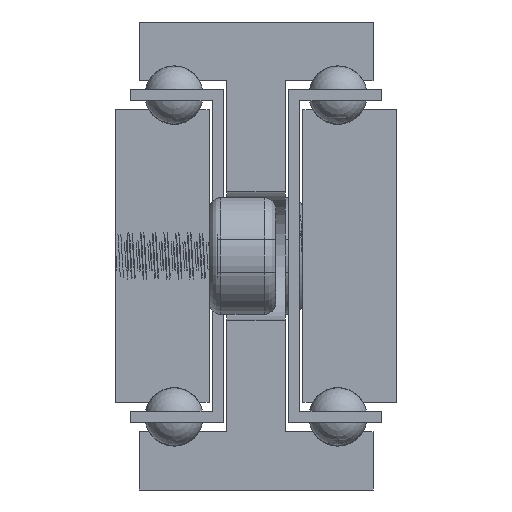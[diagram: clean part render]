
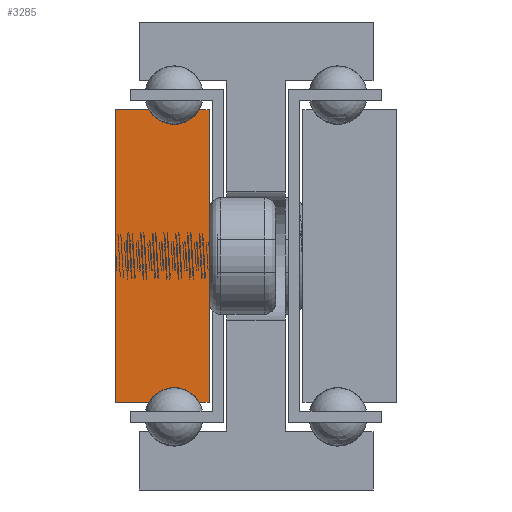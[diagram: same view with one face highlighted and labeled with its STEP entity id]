
A CAD part, front view. The second image highlights one B-rep face of the part: STEP entity #3285.
In plain terms, the highlighted planar face has unit normal (0, -1, 0).
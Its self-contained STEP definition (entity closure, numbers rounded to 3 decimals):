
#220=LINE('',#34554,#430);
#223=LINE('',#34560,#433);
#227=LINE('',#34572,#437);
#230=LINE('',#34578,#440);
#233=LINE('',#34584,#443);
#237=LINE('',#34594,#447);
#430=VECTOR('',#3816,1.);
#433=VECTOR('',#3821,1.);
#437=VECTOR('',#3833,1.);
#440=VECTOR('',#3838,1.);
#443=VECTOR('',#3843,1.);
#447=VECTOR('',#3855,1.);
#645=PLANE('',#3516);
#733=CIRCLE('',#3507,2.5);
#735=CIRCLE('',#3513,2.5);
#925=FACE_OUTER_BOUND('',#1135,.T.);
#1135=EDGE_LOOP('',(#2474,#2475,#2476,#2477,#2478,#2479,#2480,#2481));
#1554=VERTEX_POINT('',#34551);
#1555=VERTEX_POINT('',#34553);
#1557=VERTEX_POINT('',#34559);
#1559=VERTEX_POINT('',#34565);
#1561=VERTEX_POINT('',#34571);
#1563=VERTEX_POINT('',#34577);
#1565=VERTEX_POINT('',#34583);
#1567=VERTEX_POINT('',#34589);
#1924=EDGE_CURVE('',#1555,#1554,#220,.T.);
#1927=EDGE_CURVE('',#1557,#1555,#223,.T.);
#1930=EDGE_CURVE('',#1559,#1557,#733,.T.);
#1933=EDGE_CURVE('',#1561,#1559,#227,.T.);
#1936=EDGE_CURVE('',#1563,#1561,#230,.T.);
#1939=EDGE_CURVE('',#1565,#1563,#233,.T.);
#1942=EDGE_CURVE('',#1567,#1565,#735,.T.);
#1945=EDGE_CURVE('',#1554,#1567,#237,.T.);
#2474=ORIENTED_EDGE('',*,*,#1945,.T.);
#2475=ORIENTED_EDGE('',*,*,#1942,.T.);
#2476=ORIENTED_EDGE('',*,*,#1939,.T.);
#2477=ORIENTED_EDGE('',*,*,#1936,.T.);
#2478=ORIENTED_EDGE('',*,*,#1933,.T.);
#2479=ORIENTED_EDGE('',*,*,#1930,.T.);
#2480=ORIENTED_EDGE('',*,*,#1927,.T.);
#2481=ORIENTED_EDGE('',*,*,#1924,.T.);
#3285=ADVANCED_FACE('',(#925),#645,.T.);
#3507=AXIS2_PLACEMENT_3D('',#34566,#3827,#3828);
#3513=AXIS2_PLACEMENT_3D('',#34590,#3849,#3850);
#3516=AXIS2_PLACEMENT_3D('',#34596,#3858,#3859);
#3816=DIRECTION('',(0.,0.,-1.));
#3821=DIRECTION('',(-1.,0.,0.));
#3827=DIRECTION('center_axis',(0.,1.,0.));
#3828=DIRECTION('ref_axis',(-0.866,0.,-0.5));
#3833=DIRECTION('',(-1.,0.,0.));
#3838=DIRECTION('',(0.,0.,1.));
#3843=DIRECTION('',(1.,0.,0.));
#3849=DIRECTION('center_axis',(0.,1.,0.));
#3850=DIRECTION('ref_axis',(0.866,0.,0.5));
#3855=DIRECTION('',(1.,0.,0.));
#3858=DIRECTION('center_axis',(0.,-1.,0.));
#3859=DIRECTION('ref_axis',(1.,0.,0.));
#34551=CARTESIAN_POINT('',(2287.497,805.64,162.5));
#34553=CARTESIAN_POINT('',(2287.497,805.64,187.5));
#34554=CARTESIAN_POINT('',(2287.497,805.64,162.5));
#34559=CARTESIAN_POINT('',(2290.332,805.64,187.5));
#34560=CARTESIAN_POINT('',(2287.497,805.64,187.5));
#34565=CARTESIAN_POINT('',(2294.662,805.64,187.5));
#34566=CARTESIAN_POINT('Origin',(2292.497,805.64,188.75));
#34571=CARTESIAN_POINT('',(2295.497,805.64,187.5));
#34572=CARTESIAN_POINT('',(2294.662,805.64,187.5));
#34577=CARTESIAN_POINT('',(2295.497,805.64,162.5));
#34578=CARTESIAN_POINT('',(2295.497,805.64,187.5));
#34583=CARTESIAN_POINT('',(2294.662,805.64,162.5));
#34584=CARTESIAN_POINT('',(2295.497,805.64,162.5));
#34589=CARTESIAN_POINT('',(2290.332,805.64,162.5));
#34590=CARTESIAN_POINT('Origin',(2292.497,805.64,161.25));
#34594=CARTESIAN_POINT('',(2290.332,805.64,162.5));
#34596=CARTESIAN_POINT('Origin',(2291.485,805.64,175.));
